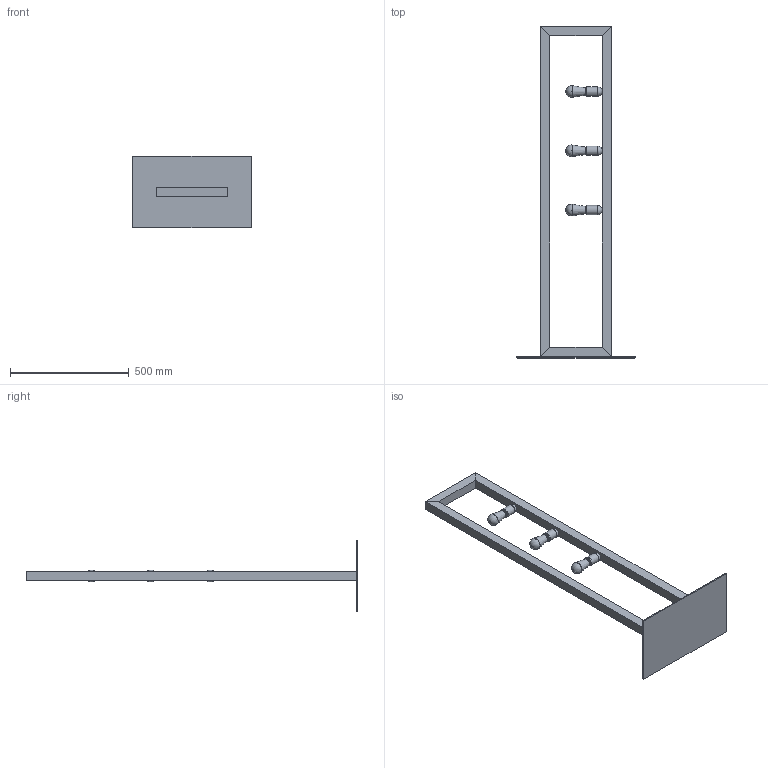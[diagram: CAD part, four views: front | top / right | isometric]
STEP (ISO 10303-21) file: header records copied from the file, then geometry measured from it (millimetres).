
FILE_DESCRIPTION(/* description */ (''),/* implementation_level */ '2;1');
FILE_NAME(/* name */ 'C:/Users/kubaw/OneDrive/Pulpit/TK_lighting - modele 2/OK/5022_METRO v6/5022_METRO v6.step',/* time_stamp */ '2021-03-31T19:43:07+02:00',/* author */ (''),/* organization */ (''),/* preprocessor_version */ 'ST-DEVELOPER v18.1',/* originating_system */ 'Autodesk Translation Framework v9.10.0.1330',/* authorisation */ '');
FILE_SCHEMA (('AUTOMOTIVE_DESIGN { 1 0 10303 214 3 1 1 }'));
Length unit declared in the file: millimetre
Products named in the file (2): 5022_METRO; OPRAWA
Assembly tree (3 placements, depth 2):
  5022_METRO
    OPRAWA  x3
Bounding box: 500 x 1400 x 300 mm (x, y, z)
Volume: 6132275.3 mm3; surface area: 961592.2 mm2
Topology: 32 solids, 32 shells, 187 faces, 336 edges, 222 vertices
Faces by surface type: plane 75, cone 36, cylinder 25, bspline 21, torus 15, sphere 15
Full cylindrical faces by diameter (mm): 1.04 x12, 5.2 x3, 37.7 x3, 39 x3
Entity records: 2453 total; most frequent: CARTESIAN_POINT 637, DIRECTION 377, ORIENTED_EDGE 310, EDGE_CURVE 155, AXIS2_PLACEMENT_3D 147, VERTEX_POINT 106, EDGE_LOOP 93, FACE_OUTER_BOUND 85
